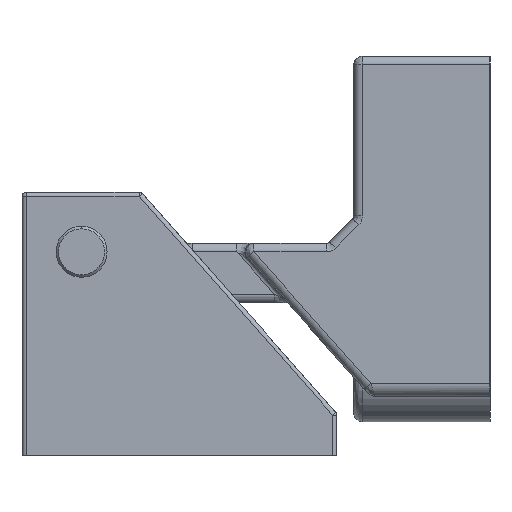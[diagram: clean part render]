
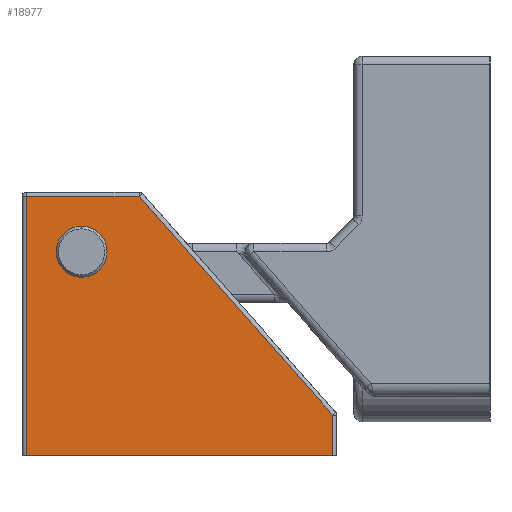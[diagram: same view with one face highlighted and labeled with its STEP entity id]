
A CAD part, left-side view. The second image highlights one B-rep face of the part: STEP entity #18977.
In plain terms, the highlighted planar face has unit normal (-1, 0, 0) as drawn and (0, 0, -1) by its records, which use the part's own axes.
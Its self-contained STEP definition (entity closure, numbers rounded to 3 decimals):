
#681 = CARTESIAN_POINT ( 'NONE',  ( -15., 18., -69. ) ) ;
#739 = CARTESIAN_POINT ( 'NONE',  ( 0., -18., -69. ) ) ;
#880 = DIRECTION ( 'NONE',  ( 0., -1., 0. ) ) ;
#1340 = VERTEX_POINT ( 'NONE', #16277 ) ;
#2023 = VERTEX_POINT ( 'NONE', #2337 ) ;
#2295 = VERTEX_POINT ( 'NONE', #681 ) ;
#2337 = CARTESIAN_POINT ( 'NONE',  ( 15.5, -18., -69. ) ) ;
#2809 = VERTEX_POINT ( 'NONE', #11681 ) ;
#3106 = ORIENTED_EDGE ( 'NONE', *, *, #8859, .F. ) ;
#3338 = EDGE_CURVE ( 'NONE', #22027, #2809, #8755, .T. ) ;
#3845 = EDGE_CURVE ( 'NONE', #17324, #2023, #19884, .T. ) ;
#4163 = EDGE_CURVE ( 'NONE', #20452, #2023, #14625, .T. ) ;
#4519 = EDGE_CURVE ( 'NONE', #2295, #1340, #21413, .T. ) ;
#5243 = AXIS2_PLACEMENT_3D ( 'NONE', #6558, #20681, #11808 ) ;
#5575 = ORIENTED_EDGE ( 'NONE', *, *, #4163, .F. ) ;
#5768 = DIRECTION ( 'NONE',  ( 1., 0., 0. ) ) ;
#5892 = PLANE ( 'NONE',  #13445 ) ;
#6222 = FACE_OUTER_BOUND ( 'NONE', #10917, .T. ) ;
#6312 = VECTOR ( 'NONE', #6778, 1000. ) ;
#6322 = LINE ( 'NONE', #18519, #15078 ) ;
#6558 = CARTESIAN_POINT ( 'NONE',  ( -8.5, 11.5, -69. ) ) ;
#6778 = DIRECTION ( 'NONE',  ( 0.749, -0.663, 0. ) ) ;
#7182 = DIRECTION ( 'NONE',  ( 1., 0., 0. ) ) ;
#7399 = CARTESIAN_POINT ( 'NONE',  ( 15.5, 18., -69. ) ) ;
#7414 = DIRECTION ( 'NONE',  ( 0., 0., -1. ) ) ;
#7879 = CARTESIAN_POINT ( 'NONE',  ( 10.689, -18., -69. ) ) ;
#7995 = VECTOR ( 'NONE', #18242, 1000. ) ;
#8742 = EDGE_CURVE ( 'NONE', #1340, #20452, #17166, .T. ) ;
#8755 = CIRCLE ( 'NONE', #21489, 3. ) ;
#8859 = EDGE_CURVE ( 'NONE', #2809, #22027, #15428, .T. ) ;
#10917 = EDGE_LOOP ( 'NONE', ( #5575, #18137, #11169, #12931, #21955 ) ) ;
#11169 = ORIENTED_EDGE ( 'NONE', *, *, #4519, .F. ) ;
#11313 = DIRECTION ( 'NONE',  ( 1., 0., 0. ) ) ;
#11681 = CARTESIAN_POINT ( 'NONE',  ( -11.5, 11.5, -69. ) ) ;
#11808 = DIRECTION ( 'NONE',  ( 1., 0., 0. ) ) ;
#12760 = ORIENTED_EDGE ( 'NONE', *, *, #3338, .F. ) ;
#12869 = CARTESIAN_POINT ( 'NONE',  ( -5.5, 11.5, -69. ) ) ;
#12931 = ORIENTED_EDGE ( 'NONE', *, *, #17094, .F. ) ;
#13445 = AXIS2_PLACEMENT_3D ( 'NONE', #20133, #18419, #5768 ) ;
#14625 = LINE ( 'NONE', #739, #20065 ) ;
#15078 = VECTOR ( 'NONE', #20578, 1000. ) ;
#15226 = CARTESIAN_POINT ( 'NONE',  ( -15., 4.725, -69. ) ) ;
#15428 = CIRCLE ( 'NONE', #5243, 3. ) ;
#16277 = CARTESIAN_POINT ( 'NONE',  ( -15., 4.725, -69. ) ) ;
#16712 = FACE_BOUND ( 'NONE', #21345, .T. ) ;
#17094 = EDGE_CURVE ( 'NONE', #17324, #2295, #6322, .T. ) ;
#17166 = LINE ( 'NONE', #15226, #6312 ) ;
#17324 = VERTEX_POINT ( 'NONE', #7399 ) ;
#18014 = CARTESIAN_POINT ( 'NONE',  ( -15., 0., -69. ) ) ;
#18137 = ORIENTED_EDGE ( 'NONE', *, *, #8742, .F. ) ;
#18242 = DIRECTION ( 'NONE',  ( 0., -1., 0. ) ) ;
#18419 = DIRECTION ( 'NONE',  ( 0., 0., 1. ) ) ;
#18519 = CARTESIAN_POINT ( 'NONE',  ( 0., 18., -69. ) ) ;
#18977 = ADVANCED_FACE ( 'NONE', ( #6222, #16712 ), #5892, .F. ) ;
#19884 = LINE ( 'NONE', #20110, #20420 ) ;
#20065 = VECTOR ( 'NONE', #11313, 1000. ) ;
#20110 = CARTESIAN_POINT ( 'NONE',  ( 15.5, 0., -69. ) ) ;
#20133 = CARTESIAN_POINT ( 'NONE',  ( 0., 0., -69. ) ) ;
#20420 = VECTOR ( 'NONE', #880, 1000. ) ;
#20452 = VERTEX_POINT ( 'NONE', #7879 ) ;
#20578 = DIRECTION ( 'NONE',  ( -1., 0., 0. ) ) ;
#20681 = DIRECTION ( 'NONE',  ( 0., 0., -1. ) ) ;
#20976 = CARTESIAN_POINT ( 'NONE',  ( -8.5, 11.5, -69. ) ) ;
#21345 = EDGE_LOOP ( 'NONE', ( #12760, #3106 ) ) ;
#21413 = LINE ( 'NONE', #18014, #7995 ) ;
#21489 = AXIS2_PLACEMENT_3D ( 'NONE', #20976, #7414, #7182 ) ;
#21955 = ORIENTED_EDGE ( 'NONE', *, *, #3845, .T. ) ;
#22027 = VERTEX_POINT ( 'NONE', #12869 ) ;
